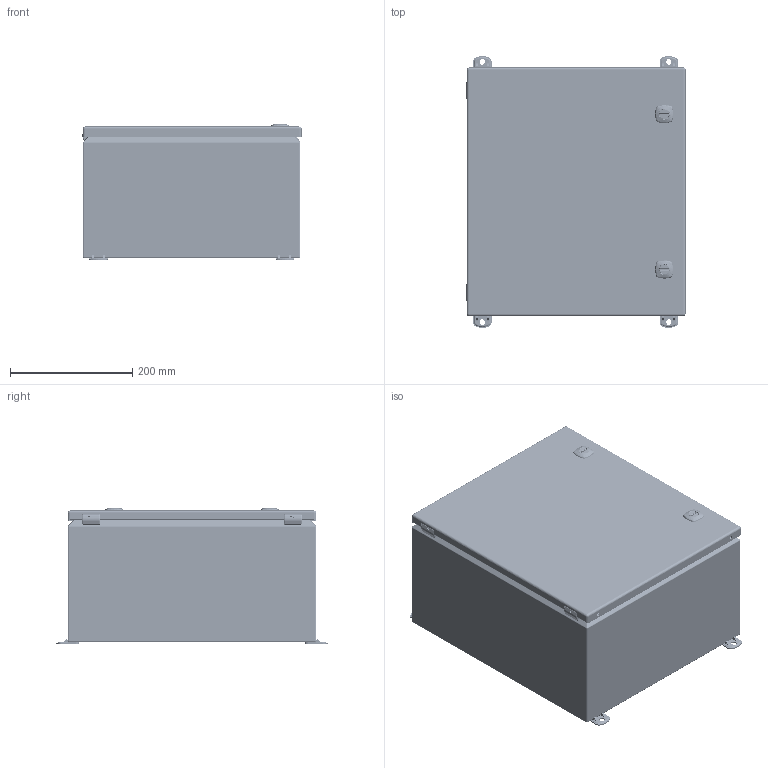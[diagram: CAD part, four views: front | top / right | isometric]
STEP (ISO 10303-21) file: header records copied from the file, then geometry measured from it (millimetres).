
FILE_DESCRIPTION(/* description */ ('5412ESM 16" x 14" x 8" Assembly'),/* implementation_level */ '2;1');
FILE_NAME(/* name */ 'C:\Vault_Workspace\Inventor_Dwg\BoxCad\Result\5412ESM161408\e-mail\3D\5412ESM161408.stp',/* time_stamp */ '2021-12-03T07:09:10-05:00',/* author */ ('BoxCad'),/* organization */ (''),/* preprocessor_version */ 'ST-DEVELOPER v18.1',/* originating_system */ 'Autodesk Inventor 2020',/* authorisation */ '');
FILE_SCHEMA (('AUTOMOTIVE_DESIGN { 1 0 10303 214 3 1 1 }'));
Products named in the file (41): 5412ESM161408; 5412ESM161408B; 5412ESM161408B-P; STK-Q-08350; 5412ESM161408MF-P; STK-Q-00200; STK-Q-08112; STK-Q-00200_1; STK-Q-00200-P; STK-Q-00200-N; STK-Q-08112_1; STK-Q-08112-A; STK-Q-08112-B; 880SP1614G; 880SP1614G-P; 5412ESM161408AK; 5412ESM161408C; 5412ESM161408C-P; 5412ESM161408G; STK-A-33033-1; STK-A-33033-2; STK-Q-33033-B; STK-Q-33033-S; STK-Q-33033-G; STK-P-02400S; STANDOFF_M6 x 10mm; STK-S-00100; STK-A-880SCQ4-SL-1; STK-A-880SCQ4-SL-2; STK-Q-78110; STK-Q-78120; STK-Q-78145; STK-Q-03200; STK-Q-78125; STK-Q-78141; STK-Q-90390; STK-Q-78160; STK-Q-08100-3; STK-Q-08100-4; STK-Q-08100-A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
Assembly tree (69 placements, depth 4):
  5412ESM161408
    5412ESM161408B
      5412ESM161408B-P
      STK-Q-08350  x4
      STK-P-02400S
      5412ESM161408MF-P  x4
      STANDOFF_M6 x 10mm
      STK-Q-00200
        STK-Q-00200-P
        STK-Q-00200-N
      STK-Q-08112
        STK-Q-08112-A
        STK-Q-08112-B
      STK-Q-00200_1
        STK-Q-00200-P
        STK-Q-00200-N
      STK-Q-08112_1
        STK-Q-08112-A
        STK-Q-08112-B
    880SP1614G
      880SP1614G-P
    5412ESM161408AK
      STK-Q-03200  x4
    5412ESM161408C
      5412ESM161408C-P
      5412ESM161408G
      STK-A-33033-1
        STK-Q-33033-B
        STK-Q-33033-S
        STK-Q-33033-G
      STK-A-33033-2
        STK-Q-33033-B
        STK-Q-33033-S
        STK-Q-33033-G
      STK-P-02400S
      STANDOFF_M6 x 10mm
      STK-S-00100
      STK-A-880SCQ4-SL-1
        STK-Q-78110
        STK-Q-78120
        STK-Q-78145
        STK-Q-03200
        STK-Q-78125
        STK-Q-78141
        STK-Q-90390
        STK-Q-78160
      STK-A-880SCQ4-SL-2
        STK-Q-78110
        STK-Q-78120
        STK-Q-78145
        STK-Q-03200
        STK-Q-78125
        STK-Q-78141
        STK-Q-90390
        STK-Q-78160
    STK-Q-08100-3
      STK-Q-08100-A
      STK-Q-08100-B
    STK-Q-08100-4
      STK-Q-08100-A
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Bounding box: 358.42 x 444.4 x 222.87 mm (x, y, z)
Volume: 1166348.3 mm3; surface area: 1632514.3 mm2
Topology: 55 solids, 55 shells, 7863 faces, 20060 edges, 12224 vertices
Faces by surface type: plane 4003, cylinder 1622, bspline 1392, torus 490, sphere 182, cone 174
Full cylindrical faces by diameter (mm): 0.762 x6, 0.9 x6, 3 x2, 3.175 x2, 3.25 x2, 4.2 x2, 4.4 x6, 4.45 x2, 4.6 x10, 4.9 x32, 5 x4, 5.1 x60, 5.4 x2, 5.9 x48, 6 x8, 6.1 x6, 7.62 x2, 7.8 x2, 8.128 x4, 9.6 x2, 9.9 x4, 10 x4, 12.8 x2, 13 x6, 15.9 x2, 16 x2, 19.7 x2, 20.6 x2, 25 x4, 29 x4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
Entity records: 118895 total; most frequent: CARTESIAN_POINT 46796, ORIENTED_EDGE 15514, DIRECTION 13437, EDGE_CURVE 7757, VERTEX_POINT 4779, AXIS2_PLACEMENT_3D 4751, LINE 3935, VECTOR 3935
